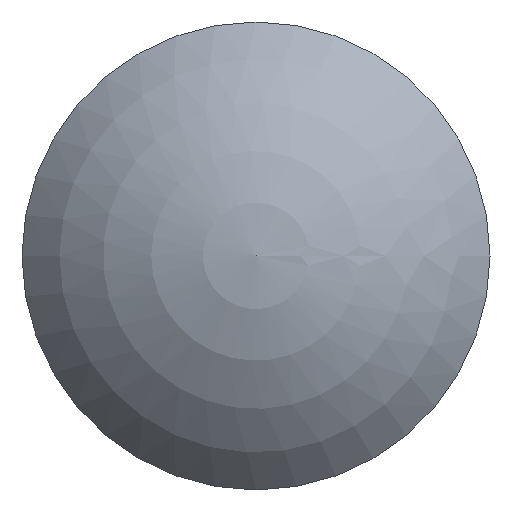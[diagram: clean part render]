
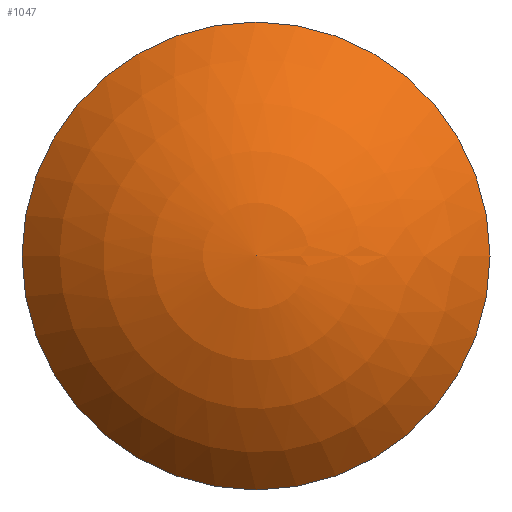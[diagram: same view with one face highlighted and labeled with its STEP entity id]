
A CAD part, top view. The second image highlights one B-rep face of the part: STEP entity #1047.
In plain terms, the highlighted spherical face has radius 10.676 mm.
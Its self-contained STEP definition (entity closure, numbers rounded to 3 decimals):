
#93 = PLANE('',#94);
#94 = AXIS2_PLACEMENT_3D('',#95,#96,#97);
#95 = CARTESIAN_POINT('',(0.,0.,18.));
#96 = DIRECTION('',(0.,0.,1.));
#97 = DIRECTION('',(1.,0.,-0.));
#431 = EDGE_CURVE('',#432,#432,#434,.T.);
#432 = VERTEX_POINT('',#433);
#433 = CARTESIAN_POINT('',(8.25,0.,18.));
#434 = SURFACE_CURVE('',#435,(#440,#447),.PCURVE_S1.);
#435 = CIRCLE('',#436,8.25);
#436 = AXIS2_PLACEMENT_3D('',#437,#438,#439);
#437 = CARTESIAN_POINT('',(0.,0.,18.));
#438 = DIRECTION('',(0.,0.,1.));
#439 = DIRECTION('',(1.,0.,-0.));
#440 = PCURVE('',#93,#441);
#441 = DEFINITIONAL_REPRESENTATION('',(#442),#446);
#442 = CIRCLE('',#443,8.25);
#443 = AXIS2_PLACEMENT_2D('',#444,#445);
#444 = CARTESIAN_POINT('',(0.,0.));
#445 = DIRECTION('',(1.,0.));
#446 = ( GEOMETRIC_REPRESENTATION_CONTEXT(2) 
PARAMETRIC_REPRESENTATION_CONTEXT() REPRESENTATION_CONTEXT('2D SPACE',''
  ) );
#447 = PCURVE('',#448,#453);
#448 = SPHERICAL_SURFACE('',#449,10.676);
#449 = AXIS2_PLACEMENT_3D('',#450,#451,#452);
#450 = CARTESIAN_POINT('',(0.,0.,11.224));
#451 = DIRECTION('',(0.,0.,1.));
#452 = DIRECTION('',(1.,0.,0.));
#453 = DEFINITIONAL_REPRESENTATION('',(#454),#458);
#454 = LINE('',#455,#456);
#455 = CARTESIAN_POINT('',(0.,0.688));
#456 = VECTOR('',#457,1.);
#457 = DIRECTION('',(1.,0.));
#458 = ( GEOMETRIC_REPRESENTATION_CONTEXT(2) 
PARAMETRIC_REPRESENTATION_CONTEXT() REPRESENTATION_CONTEXT('2D SPACE',''
  ) );
#1047 = ADVANCED_FACE('',(#1048),#448,.T.);
#1048 = FACE_BOUND('',#1049,.T.);
#1049 = EDGE_LOOP('',(#1050,#1074,#1075));
#1050 = ORIENTED_EDGE('',*,*,#1051,.T.);
#1051 = EDGE_CURVE('',#432,#1052,#1054,.T.);
#1052 = VERTEX_POINT('',#1053);
#1053 = CARTESIAN_POINT('',(0.,0.,21.9)
  );
#1054 = SEAM_CURVE('',#1055,(#1060,#1067),.PCURVE_S1.);
#1055 = CIRCLE('',#1056,10.676);
#1056 = AXIS2_PLACEMENT_3D('',#1057,#1058,#1059);
#1057 = CARTESIAN_POINT('',(0.,0.,11.224));
#1058 = DIRECTION('',(0.,-1.,0.));
#1059 = DIRECTION('',(1.,0.,0.));
#1060 = PCURVE('',#448,#1061);
#1061 = DEFINITIONAL_REPRESENTATION('',(#1062),#1066);
#1062 = LINE('',#1063,#1064);
#1063 = CARTESIAN_POINT('',(6.283,-6.283));
#1064 = VECTOR('',#1065,1.);
#1065 = DIRECTION('',(0.,1.));
#1066 = ( GEOMETRIC_REPRESENTATION_CONTEXT(2) 
PARAMETRIC_REPRESENTATION_CONTEXT() REPRESENTATION_CONTEXT('2D SPACE',''
  ) );
#1067 = PCURVE('',#448,#1068);
#1068 = DEFINITIONAL_REPRESENTATION('',(#1069),#1073);
#1069 = LINE('',#1070,#1071);
#1070 = CARTESIAN_POINT('',(0.,-6.283));
#1071 = VECTOR('',#1072,1.);
#1072 = DIRECTION('',(0.,1.));
#1073 = ( GEOMETRIC_REPRESENTATION_CONTEXT(2) 
PARAMETRIC_REPRESENTATION_CONTEXT() REPRESENTATION_CONTEXT('2D SPACE',''
  ) );
#1074 = ORIENTED_EDGE('',*,*,#1051,.F.);
#1075 = ORIENTED_EDGE('',*,*,#431,.T.);
